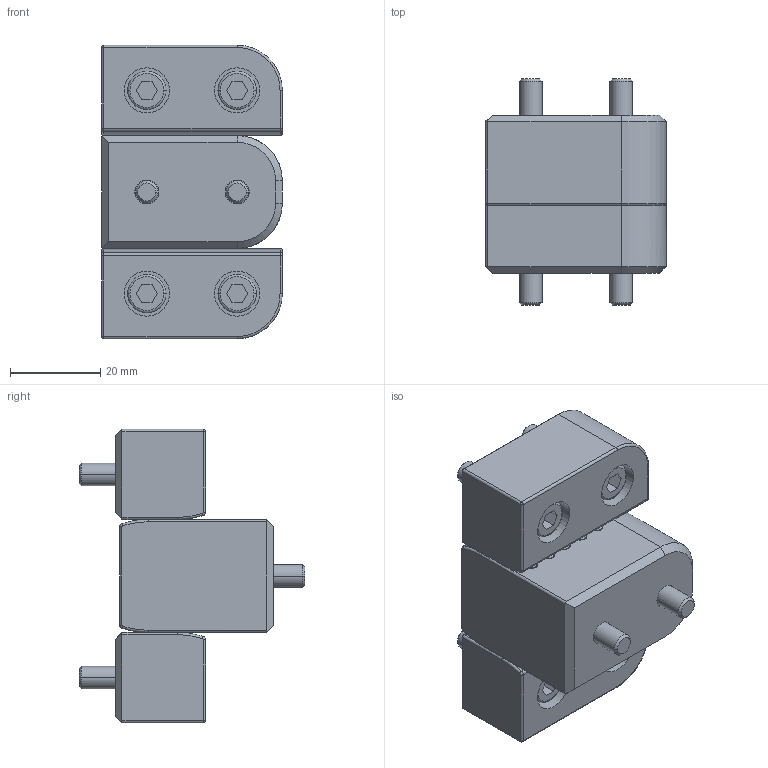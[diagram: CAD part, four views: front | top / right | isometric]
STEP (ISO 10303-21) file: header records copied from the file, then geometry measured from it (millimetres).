
FILE_DESCRIPTION (( 'STEP AP203' ), '1' );
FILE_NAME ('GLM40X65.step', '2015-11-05T22:08:04', ( '' ), ( '' ), 'SwSTEP 2.0', 'SolidWorks 2014', '' );
FILE_SCHEMA (( 'CONFIG_CONTROL_DESIGN' ));
Length unit declared in the file: millimetre
Products named in the file (6): GLM40X65 MALE; M5_X_22; GLM40X65 LH; M5_X_35; GLM40X65; GLM40X65 RH
Assembly tree (9 placements, depth 2):
  GLM40X65
    GLM40X65 MALE
    GLM40X65 RH
    GLM40X65 LH
    M5_X_35  x2
    M5_X_22  x4
Bounding box: 40 x 50 x 65 mm (x, y, z)
Volume: 62005.1 mm3; surface area: 20372.1 mm2
Topology: 9 solids, 9 shells, 483 faces, 1019 edges, 658 vertices
Faces by surface type: cylinder 253, plane 184, torus 28, cone 16, sphere 2
Entity records: 12011 total; most frequent: DIRECTION 2179, CARTESIAN_POINT 1966, ORIENTED_EDGE 1730, AXIS2_PLACEMENT_3D 919, EDGE_CURVE 865, VERTEX_POINT 562, EDGE_LOOP 521, CIRCLE 496
